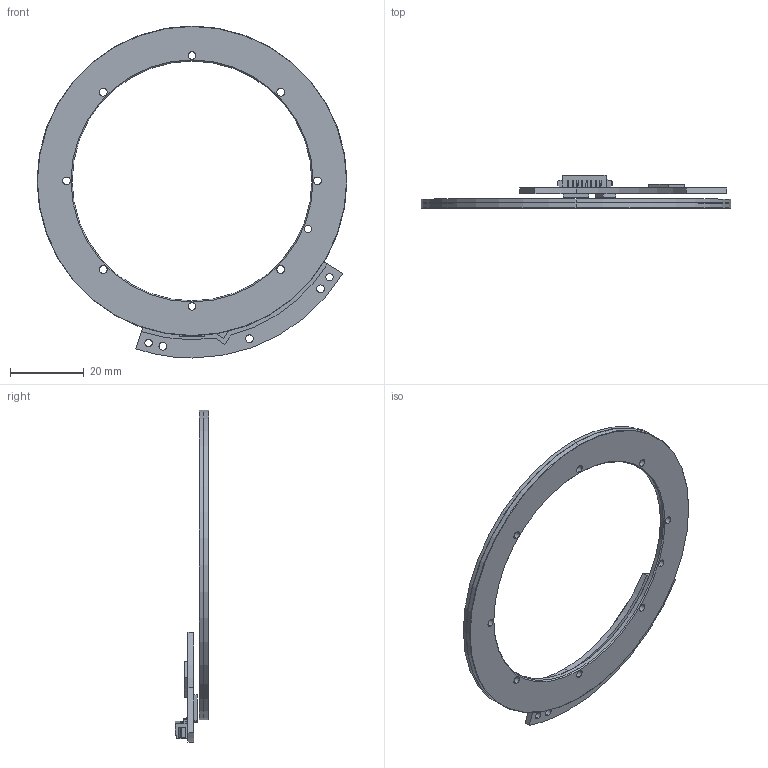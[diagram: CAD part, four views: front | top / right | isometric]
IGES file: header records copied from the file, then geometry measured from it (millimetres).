
Start section: SolidWorks IGES file using analytic representation for surfaces
Global section: file name: C:\Users\Administrator\Desktop\埻唳蜊\65\eCoder65.IGS,15; native system: HSolidWorks 2021; preprocessor: SolidWorks 2021; author: ZERO; date: 221228.174659; units: millimetre
Bounding box: 84 x 9 x 90 mm (x, y, z)
Volume: 6191.1 mm3; surface area: 11051.9 mm2
Topology: 6 solids, 6 shells, 328 faces, 883 edges, 574 vertices
Faces by surface type: plane 270, revolution 58
